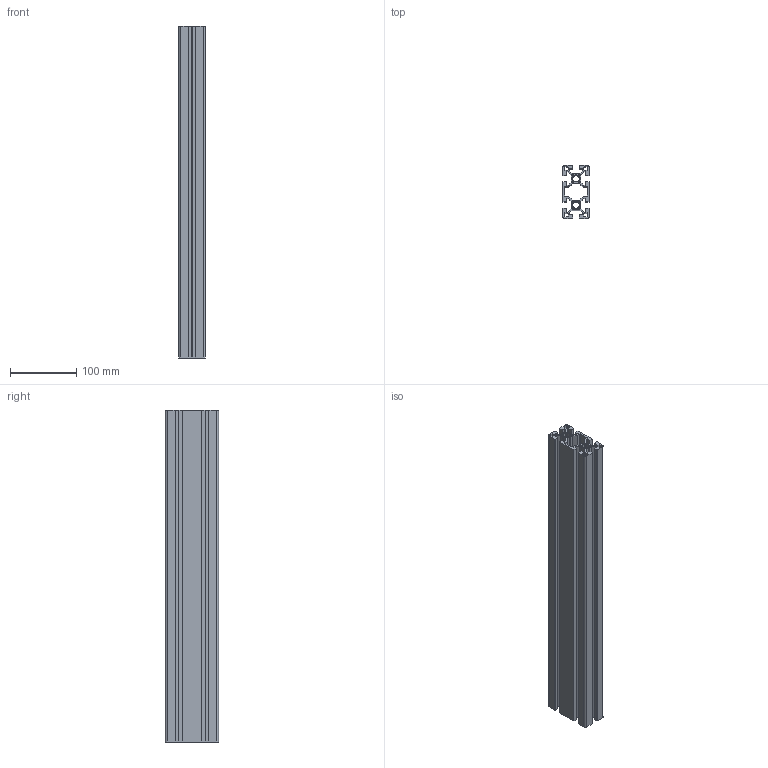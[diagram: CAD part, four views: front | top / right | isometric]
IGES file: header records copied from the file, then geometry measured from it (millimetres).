
Start section: SolidWorks IGES file using analytic representation for surfaces
Global section: file name: C:\Documents and Settings\Administrator\デスクトップ\指定保存後3回目\SolidWorks\SF\SF40・45\Frame\SFF-484.IGS,41HSolidWorks; native system: 2006 by SolidWorks Corporation; preprocessor: SolidWorks 2006 by SolidWorks Corporation; author: Administrator; date: 061213.113202; units: millimetre
Bounding box: 40 x 80 x 500 mm (x, y, z)
Surface area: 387506.2 mm2 (no closed solid volume)
Topology: 0 solids, 0 shells, 212 faces, 2830 edges, 3460 vertices
Faces by surface type: bspline 118, revolution 94
